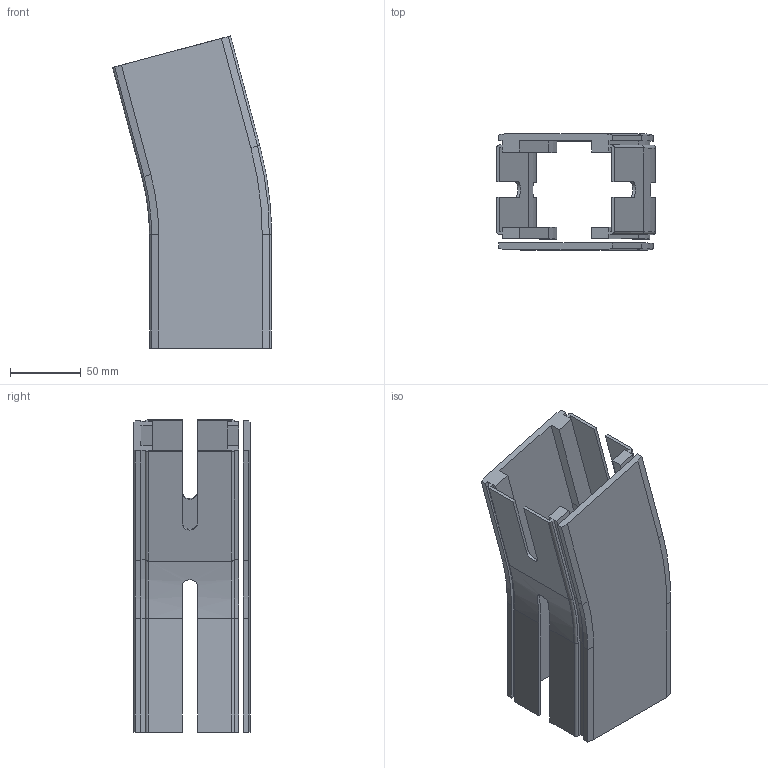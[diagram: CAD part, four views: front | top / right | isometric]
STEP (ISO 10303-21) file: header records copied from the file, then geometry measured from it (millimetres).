
FILE_DESCRIPTION(/* description */ ('GLIDKURVA SERIE 530'),/* implementation_level */ '2;1');
FILE_NAME(/* name */ '530-5375+830-2000-01.stp',/* time_stamp */ '2022-09-20T14:37:10+02:00',/* author */ ('Mathias.Dore'),/* organization */ ('CARRYLINE'),/* preprocessor_version */ 'ST-DEVELOPER v19.2',/* originating_system */ 'Autodesk Inventor 2023',/* authorisation */ '');
FILE_SCHEMA (('AUTOMOTIVE_DESIGN { 1 0 10303 214 3 1 1 }'));
Length unit declared in the file: millimetre
Products named in the file (1): 530-5375+830-2000-01
Bounding box: 112.06 x 82 x 220.17 mm (x, y, z)
Volume: 307779.5 mm3; surface area: 149517.8 mm2
Topology: 2 solids, 2 shells, 163 faces, 446 edges, 292 vertices
Faces by surface type: plane 109, cylinder 30, bspline 16, torus 4, cone 4
Entity records: 5405 total; most frequent: CARTESIAN_POINT 1210, ORIENTED_EDGE 892, DIRECTION 786, EDGE_CURVE 446, LINE 338, VECTOR 338, VERTEX_POINT 292, AXIS2_PLACEMENT_3D 224
